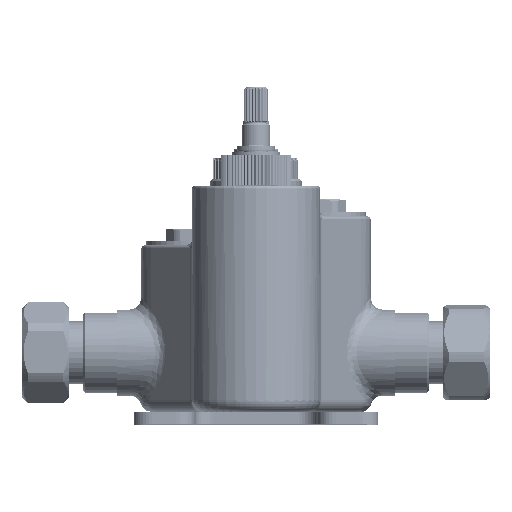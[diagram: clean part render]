
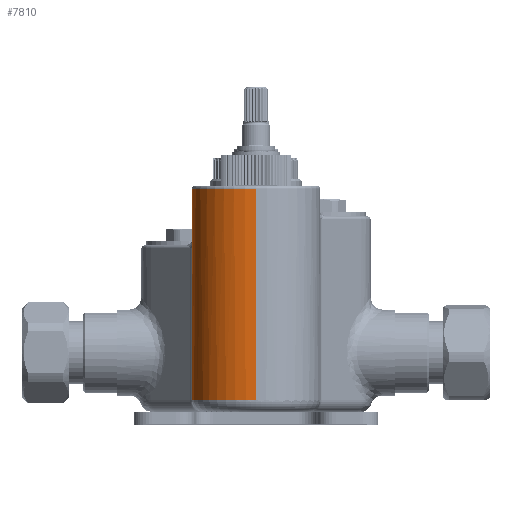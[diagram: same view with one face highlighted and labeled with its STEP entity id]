
A CAD part, top view. The second image highlights one B-rep face of the part: STEP entity #7810.
In plain terms, the highlighted cylindrical face has radius 21 mm (diameter 42 mm), a partial arc.
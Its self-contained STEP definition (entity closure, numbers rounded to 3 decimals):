
#366=CARTESIAN_POINT('',(0.,-10.,0.));
#367=DIRECTION('',(0.,-1.,0.));
#368=DIRECTION('',(0.,0.,1.));
#369=AXIS2_PLACEMENT_3D('',#366,#367,#368);
#371=DIRECTION('',(0.,1.,0.));
#372=VECTOR('',#371,49.5);
#373=CARTESIAN_POINT('',(-20.97,-10.,-1.131));
#374=LINE('',#373,#372);
#375=CARTESIAN_POINT('',(0.,43.5,0.));
#376=DIRECTION('',(0.,1.,0.));
#377=DIRECTION('',(-0.19,0.,-0.982));
#378=AXIS2_PLACEMENT_3D('',#375,#376,#377);
#380=CARTESIAN_POINT('',(0.,53.,0.));
#381=DIRECTION('',(0.,1.,0.));
#382=DIRECTION('',(0.,0.,-1.));
#383=AXIS2_PLACEMENT_3D('',#380,#381,#382);
#385=DIRECTION('',(0.,1.,0.));
#386=VECTOR('',#385,6.);
#387=CARTESIAN_POINT('',(0.,53.,-21.));
#388=LINE('',#387,#386);
#389=CARTESIAN_POINT('',(0.,59.,0.));
#390=DIRECTION('',(0.,1.,0.));
#391=DIRECTION('',(0.,0.,-1.));
#392=AXIS2_PLACEMENT_3D('',#389,#390,#391);
#394=CARTESIAN_POINT('',(-7.561,54.2,-19.591));
#395=CARTESIAN_POINT('',(-7.561,53.844,-19.591));
#396=CARTESIAN_POINT('',(-7.652,53.168,-19.557));
#397=CARTESIAN_POINT('',(-8.044,52.222,-19.401));
#398=CARTESIAN_POINT('',(-8.636,51.466,-19.147));
#399=CARTESIAN_POINT('',(-9.35,50.948,-18.81));
#400=CARTESIAN_POINT('',(-10.117,50.689,-18.41));
#401=CARTESIAN_POINT('',(-10.885,50.689,-17.966));
#402=CARTESIAN_POINT('',(-11.615,50.948,-17.502));
#403=CARTESIAN_POINT('',(-12.264,51.466,-17.052));
#404=CARTESIAN_POINT('',(-12.78,52.222,-16.667));
#405=CARTESIAN_POINT('',(-13.11,53.168,-16.406));
#406=CARTESIAN_POINT('',(-13.186,53.844,-16.344));
#407=CARTESIAN_POINT('',(-13.186,54.2,-16.344));
#409=CARTESIAN_POINT('',(-13.186,54.2,-16.344));
#410=CARTESIAN_POINT('',(-13.186,54.556,-16.344));
#411=CARTESIAN_POINT('',(-13.11,55.232,-16.406));
#412=CARTESIAN_POINT('',(-12.78,56.178,-16.667));
#413=CARTESIAN_POINT('',(-12.264,56.934,-17.052));
#414=CARTESIAN_POINT('',(-11.615,57.452,-17.502));
#415=CARTESIAN_POINT('',(-10.885,57.711,-17.966));
#416=CARTESIAN_POINT('',(-10.117,57.711,-18.41));
#417=CARTESIAN_POINT('',(-9.35,57.452,-18.81));
#418=CARTESIAN_POINT('',(-8.636,56.934,-19.147));
#419=CARTESIAN_POINT('',(-8.044,56.178,-19.401));
#420=CARTESIAN_POINT('',(-7.652,55.232,-19.557));
#421=CARTESIAN_POINT('',(-7.561,54.556,-19.591));
#422=CARTESIAN_POINT('',(-7.561,54.2,-19.591));
#1254=CARTESIAN_POINT('',(-3.15,53.,
-20.762));
#1334=DIRECTION('',(0.,1.,0.));
#1335=VECTOR('',#1334,69.);
#1336=CARTESIAN_POINT('',(0.,-10.,21.));
#1337=LINE('',#1336,#1335);
#2035=CARTESIAN_POINT('',(-4.,43.5,-20.616));
#4572=CARTESIAN_POINT('',(-4.,50.557,
-20.616));
#4574=DIRECTION('',(0.,-1.,0.));
#4575=VECTOR('',#4574,7.057);
#4576=CARTESIAN_POINT('',(-4.,50.557,
-20.616));
#4577=LINE('',#4576,#4575);
#4587=CARTESIAN_POINT('',(-3.15,53.,
-20.762));
#4588=CARTESIAN_POINT('',(-3.212,52.894,
-20.753));
#4589=CARTESIAN_POINT('',(-3.334,52.682,
-20.734));
#4590=CARTESIAN_POINT('',(-3.505,52.359,
-20.706));
#4591=CARTESIAN_POINT('',(-3.661,52.027,
-20.679));
#4592=CARTESIAN_POINT('',(-3.796,51.685,
-20.654));
#4593=CARTESIAN_POINT('',(-3.904,51.33,
-20.634));
#4594=CARTESIAN_POINT('',(-3.979,50.957,
-20.62));
#4595=CARTESIAN_POINT('',(-4.,50.693,
-20.616));
#4596=CARTESIAN_POINT('',(-4.,50.557,
-20.616));
#5794=CARTESIAN_POINT('',(-20.151,43.5,-5.911));
#5795=CARTESIAN_POINT('',(-20.245,43.5,
-5.592));
#5796=CARTESIAN_POINT('',(-20.405,43.432,
-4.99));
#5797=CARTESIAN_POINT('',(-20.579,43.208,
-4.207));
#5798=CARTESIAN_POINT('',(-20.705,42.905,
-3.526));
#5799=CARTESIAN_POINT('',(-20.795,42.55,
-2.942));
#5800=CARTESIAN_POINT('',(-20.859,42.158,
-2.445));
#5801=CARTESIAN_POINT('',(-20.903,41.738,
-2.029));
#5802=CARTESIAN_POINT('',(-20.932,41.298,
-1.692));
#5803=CARTESIAN_POINT('',(-20.951,40.843,
-1.433));
#5804=CARTESIAN_POINT('',(-20.963,40.381,
-1.252));
#5805=CARTESIAN_POINT('',(-20.968,39.923,
-1.151));
#5806=CARTESIAN_POINT('',(-20.97,39.639,
-1.131));
#5807=CARTESIAN_POINT('',(-20.97,39.5,-1.131));
#6351=VERTEX_POINT('',#2035);
#6399=VERTEX_POINT('',#4572);
#6401=VERTEX_POINT('',#1254);
#6404=CARTESIAN_POINT('',(-20.151,43.5,-5.911));
#6405=VERTEX_POINT('',#6404);
#6406=CARTESIAN_POINT('',(0.,53.,-21.));
#6407=VERTEX_POINT('',#6406);
#6410=VERTEX_POINT('',#5807);
#6416=CARTESIAN_POINT('',(0.,59.,-21.));
#6417=CARTESIAN_POINT('',(0.,59.,21.));
#6418=VERTEX_POINT('',#6416);
#6419=VERTEX_POINT('',#6417);
#6454=VERTEX_POINT('',#394);
#6455=VERTEX_POINT('',#407);
#6894=CARTESIAN_POINT('',(0.,-10.,21.));
#6895=VERTEX_POINT('',#6894);
#6896=CARTESIAN_POINT('',(-20.97,-10.,-1.131));
#6897=VERTEX_POINT('',#6896);
#7778=CARTESIAN_POINT('',(0.,-14.,0.));
#7779=DIRECTION('',(0.,1.,0.));
#7780=DIRECTION('',(0.,0.,-1.));
#7781=AXIS2_PLACEMENT_3D('',#7778,#7779,#7780);
#7782=CYLINDRICAL_SURFACE('',#7781,21.);
#7783=ORIENTED_EDGE('',*,*,#7767,.T.);
#7785=ORIENTED_EDGE('',*,*,#7784,.T.);
#7787=ORIENTED_EDGE('',*,*,#7786,.F.);
#7789=ORIENTED_EDGE('',*,*,#7788,.F.);
#7791=ORIENTED_EDGE('',*,*,#7790,.F.);
#7793=ORIENTED_EDGE('',*,*,#7792,.F.);
#7795=ORIENTED_EDGE('',*,*,#7794,.F.);
#7797=ORIENTED_EDGE('',*,*,#7796,.T.);
#7799=ORIENTED_EDGE('',*,*,#7798,.T.);
#7801=ORIENTED_EDGE('',*,*,#7800,.F.);
#7802=EDGE_LOOP('',(#7783,#7785,#7787,#7789,#7791,#7793,#7795,#7797,#7799,
#7801));
#7803=FACE_OUTER_BOUND('',#7802,.F.);
#7805=ORIENTED_EDGE('',*,*,#7804,.T.);
#7807=ORIENTED_EDGE('',*,*,#7806,.T.);
#7808=EDGE_LOOP('',(#7805,#7807));
#7809=FACE_BOUND('',#7808,.F.);
#7810=ADVANCED_FACE('',(#7803,#7809),#7782,.T.);
#370=CIRCLE('',#369,21.);
#379=CIRCLE('',#378,21.);
#384=CIRCLE('',#383,21.);
#393=CIRCLE('',#392,21.);
#408=B_SPLINE_CURVE_WITH_KNOTS('',3,(#394,#395,#396,#397,#398,#399,#400,#401,
#402,#403,#404,#405,#406,#407),.UNSPECIFIED.,.F.,.F.,(4,1,1,1,1,1,1,1,1,1,1,4),(
0.,0.091,0.182,0.273,0.364,
0.455,0.545,0.636,0.727,
0.818,0.909,1.),.UNSPECIFIED.);
#423=B_SPLINE_CURVE_WITH_KNOTS('',3,(#409,#410,#411,#412,#413,#414,#415,#416,
#417,#418,#419,#420,#421,#422),.UNSPECIFIED.,.F.,.F.,(4,1,1,1,1,1,1,1,1,1,1,4),(
0.,0.091,0.182,0.273,0.364,
0.455,0.545,0.636,0.727,
0.818,0.909,1.),.UNSPECIFIED.);
#4597=B_SPLINE_CURVE_WITH_KNOTS('',3,(#4587,#4588,#4589,#4590,#4591,#4592,#4593,
#4594,#4595,#4596),.UNSPECIFIED.,.F.,.F.,(4,1,1,1,1,1,1,4),(0.,
0.143,0.286,0.429,0.571,
0.714,0.857,1.),.UNSPECIFIED.);
#5808=B_SPLINE_CURVE_WITH_KNOTS('',3,(#5794,#5795,#5796,#5797,#5798,#5799,#5800,
#5801,#5802,#5803,#5804,#5805,#5806,#5807),.UNSPECIFIED.,.F.,.F.,(4,1,1,1,1,1,1,
1,1,1,1,4),(0.,0.091,0.182,0.273,
0.364,0.455,0.545,0.636,
0.727,0.818,0.909,1.),.UNSPECIFIED.);
#7767=EDGE_CURVE('',#6895,#6897,#370,.T.);
#7784=EDGE_CURVE('',#6897,#6410,#374,.T.);
#7786=EDGE_CURVE('',#6405,#6410,#5808,.T.);
#7788=EDGE_CURVE('',#6351,#6405,#379,.T.);
#7790=EDGE_CURVE('',#6399,#6351,#4577,.T.);
#7792=EDGE_CURVE('',#6401,#6399,#4597,.T.);
#7794=EDGE_CURVE('',#6407,#6401,#384,.T.);
#7796=EDGE_CURVE('',#6407,#6418,#388,.T.);
#7798=EDGE_CURVE('',#6418,#6419,#393,.T.);
#7800=EDGE_CURVE('',#6895,#6419,#1337,.T.);
#7804=EDGE_CURVE('',#6454,#6455,#408,.T.);
#7806=EDGE_CURVE('',#6455,#6454,#423,.T.);
